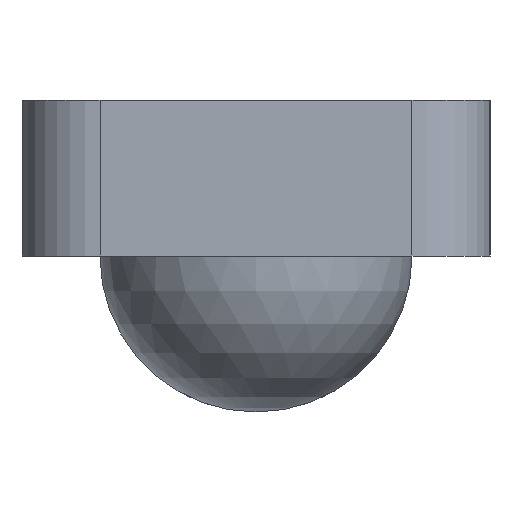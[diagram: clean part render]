
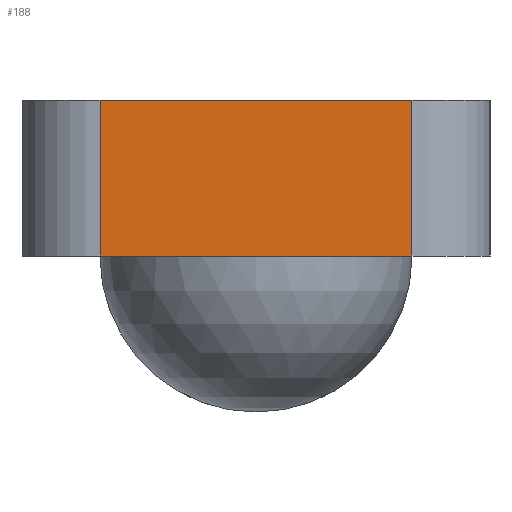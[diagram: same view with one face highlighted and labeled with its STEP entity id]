
A CAD part, front view. The second image highlights one B-rep face of the part: STEP entity #188.
In plain terms, the highlighted planar face has unit normal (0, -1, 0).
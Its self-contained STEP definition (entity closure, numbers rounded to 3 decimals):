
#5 = CARTESIAN_POINT ( 'NONE',  ( 0., 0., 0. ) ) ;
#22 = EDGE_CURVE ( 'NONE', #311, #75, #216, .T. ) ;
#33 = CARTESIAN_POINT ( 'NONE',  ( 6., 0., 4. ) ) ;
#61 = LINE ( 'NONE', #197, #184 ) ;
#75 = VERTEX_POINT ( 'NONE', #269 ) ;
#81 = VECTOR ( 'NONE', #575, 1000. ) ;
#97 = DIRECTION ( 'NONE',  ( 0., 0., 1. ) ) ;
#104 = CARTESIAN_POINT ( 'NONE',  ( -4., 0., 4. ) ) ;
#109 = ORIENTED_EDGE ( 'NONE', *, *, #526, .T. ) ;
#153 = VERTEX_POINT ( 'NONE', #544 ) ;
#170 = CARTESIAN_POINT ( 'NONE',  ( 4., 0., 0. ) ) ;
#184 = VECTOR ( 'NONE', #332, 1000. ) ;
#188 = ADVANCED_FACE ( 'NONE', ( #361 ), #325, .F. ) ;
#197 = CARTESIAN_POINT ( 'NONE',  ( 6., 0., 0. ) ) ;
#201 = ORIENTED_EDGE ( 'NONE', *, *, #22, .F. ) ;
#216 = LINE ( 'NONE', #33, #81 ) ;
#260 = CARTESIAN_POINT ( 'NONE',  ( 4., 0., 0. ) ) ;
#264 = DIRECTION ( 'NONE',  ( 0., 0., -1. ) ) ;
#269 = CARTESIAN_POINT ( 'NONE',  ( 4., 0., 4. ) ) ;
#290 = EDGE_CURVE ( 'NONE', #153, #528, #61, .T. ) ;
#305 = DIRECTION ( 'NONE',  ( 0., 0., 1. ) ) ;
#310 = CARTESIAN_POINT ( 'NONE',  ( -4., 0., 0. ) ) ;
#311 = VERTEX_POINT ( 'NONE', #104 ) ;
#312 = EDGE_LOOP ( 'NONE', ( #201, #109, #341, #469 ) ) ;
#325 = PLANE ( 'NONE',  #394 ) ;
#332 = DIRECTION ( 'NONE',  ( 1., 0., 0. ) ) ;
#341 = ORIENTED_EDGE ( 'NONE', *, *, #290, .T. ) ;
#342 = VECTOR ( 'NONE', #264, 1000. ) ;
#361 = FACE_OUTER_BOUND ( 'NONE', #312, .T. ) ;
#372 = DIRECTION ( 'NONE',  ( 0., 1., 0. ) ) ;
#393 = LINE ( 'NONE', #310, #342 ) ;
#394 = AXIS2_PLACEMENT_3D ( 'NONE', #5, #372, #97 ) ;
#465 = VECTOR ( 'NONE', #305, 1000. ) ;
#469 = ORIENTED_EDGE ( 'NONE', *, *, #480, .T. ) ;
#480 = EDGE_CURVE ( 'NONE', #528, #75, #558, .T. ) ;
#526 = EDGE_CURVE ( 'NONE', #311, #153, #393, .T. ) ;
#528 = VERTEX_POINT ( 'NONE', #170 ) ;
#544 = CARTESIAN_POINT ( 'NONE',  ( -4., 0., 0. ) ) ;
#558 = LINE ( 'NONE', #260, #465 ) ;
#575 = DIRECTION ( 'NONE',  ( 1., 0., 0. ) ) ;
